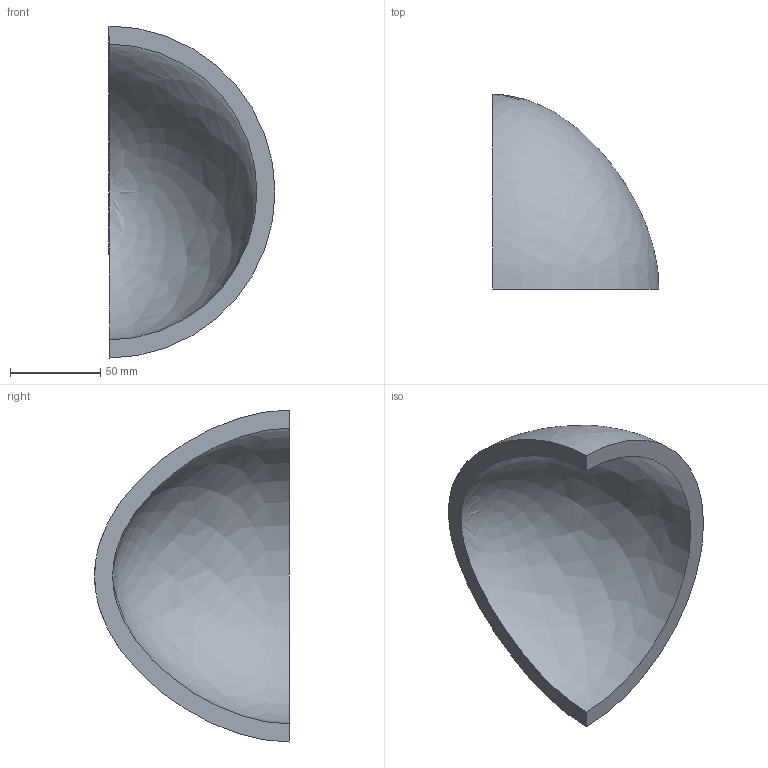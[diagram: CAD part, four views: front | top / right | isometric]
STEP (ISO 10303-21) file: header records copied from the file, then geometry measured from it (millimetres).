
FILE_DESCRIPTION(('CATIA V5 STEP Exchange'),'2;1');
FILE_NAME('C:\_Andres\UNIVERSIDAD\IQS\ASIGNATURAS\DAO\EXF\EXF-16172c\2inicio\dAndrea_Torrejon_Ej10_v8.stp','2017-03-05T22:31:09+00:00',('none'),('none'),'CATIA Version 5-6 Release 2014 SP1 HF18','CATIA V5 STEP AP203','none');
FILE_SCHEMA(('CONFIG_CONTROL_DESIGN'));
Length unit declared in the file: millimetre
Products named in the file (1): dAndrea_Torrejon_Ej10_v8
Bounding box: 92 x 108 x 184 mm (x, y, z)
Volume: 255032.8 mm3; surface area: 56773.8 mm2
Topology: 1 solids, 1 shells, 4 faces, 10 edges, 6 vertices
Faces by surface type: revolution 2, plane 2
Entity records: 239 total; most frequent: CARTESIAN_POINT 117, ORIENTED_EDGE 16, DIRECTION 10, EDGE_CURVE 8, B_SPLINE_CURVE_WITH_KNOTS 6, VERTEX_POINT 6, AXIS2_PLACEMENT_3D 5, ADVANCED_FACE 4
